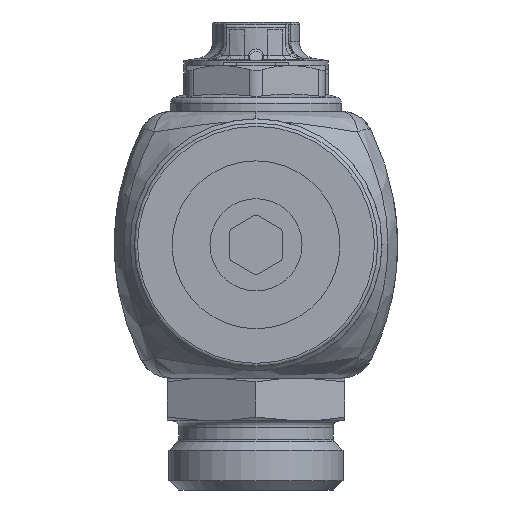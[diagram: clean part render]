
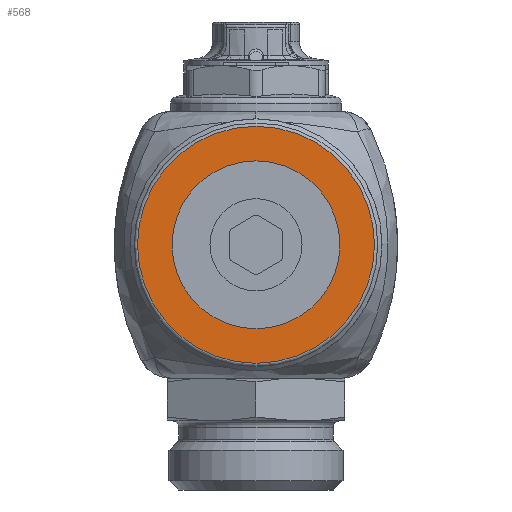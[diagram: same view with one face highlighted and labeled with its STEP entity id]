
A CAD part, front view. The second image highlights one B-rep face of the part: STEP entity #568.
In plain terms, the highlighted planar face has unit normal (0, -1, 0).
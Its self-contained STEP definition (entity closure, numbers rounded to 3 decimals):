
#568=ADVANCED_FACE('',(#15306,#15308),#15310,.F.);
#15306=FACE_BOUND('',#15307,.T.);
#15307=EDGE_LOOP('',(#18821));
#15308=FACE_BOUND('',#15309,.T.);
#15309=EDGE_LOOP('',(#18822));
#15310=PLANE('',#15311);
#15311=AXIS2_PLACEMENT_3D('',#15312,#15313,#15314);
#15312=CARTESIAN_POINT('',(0.,-220.75,0.));
#15313=DIRECTION('',(0.,1.,0.));
#15314=DIRECTION('',(-1.,0.,0.));
#18821=ORIENTED_EDGE('',*,*,#26483,.T.);
#18822=ORIENTED_EDGE('',*,*,#26522,.T.);
#26483=EDGE_CURVE('',#29781,#29781,#29782,.T.);
#26522=EDGE_CURVE('',#29848,#29848,#29849,.F.);
#29781=VERTEX_POINT('',#45413);
#29782=CIRCLE('',#45414,18.);
#29848=VERTEX_POINT('',#45576);
#29849=CIRCLE('',#45577,12.75);
#45413=CARTESIAN_POINT('',(18.,-220.75,0.));
#45414=AXIS2_PLACEMENT_3D('',#45415,#45416,#45417);
#45415=CARTESIAN_POINT('',(0.,-220.75,0.));
#45416=DIRECTION('',(0.,-1.,0.));
#45417=DIRECTION('',(1.,0.,0.));
#45576=CARTESIAN_POINT('',(12.75,-220.75,0.));
#45577=AXIS2_PLACEMENT_3D('',#45578,#45579,#45580);
#45578=CARTESIAN_POINT('',(0.,-220.75,0.));
#45579=DIRECTION('',(0.,-1.,0.));
#45580=DIRECTION('',(1.,0.,0.));
